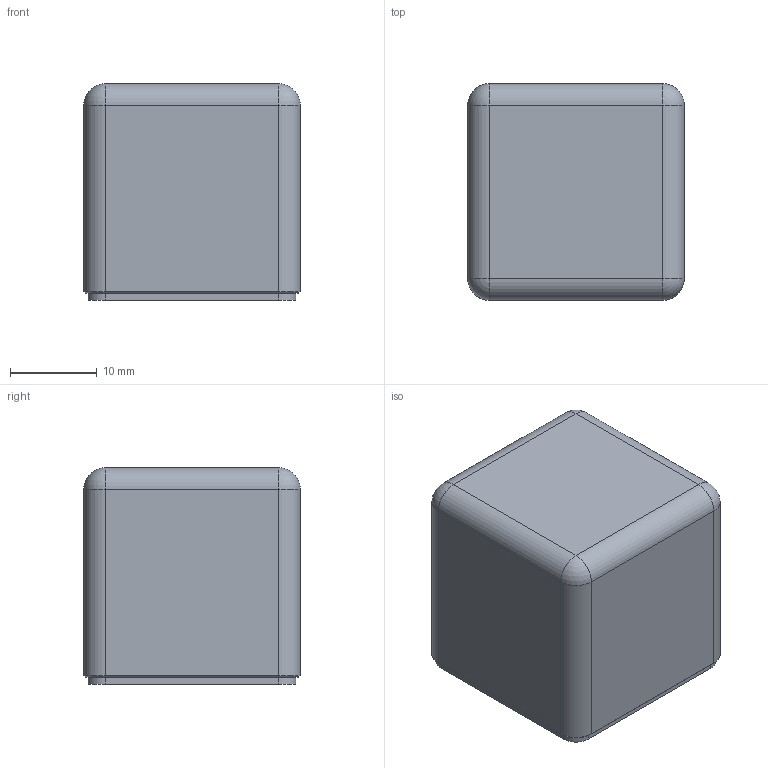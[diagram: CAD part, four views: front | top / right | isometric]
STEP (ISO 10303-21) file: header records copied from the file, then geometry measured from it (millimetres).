
FILE_DESCRIPTION(('Open CASCADE Model'),'2;1');
FILE_NAME('PN-CUBE-knob-25','2026-10-19T21:24:16',('Author'),( 'Open CASCADE'),'Open CASCADE STEP processor 8.0','build123d', 'Unknown');
FILE_SCHEMA(('AUTOMOTIVE_DESIGN { 1 0 10303 214 1 1 1 1 }'));
Length unit declared in the file: millimetre
Products named in the file (2): PN-CUBE-knob-25; brass_PN-CUBE25__k
Assembly tree (1 placements, depth 2):
  PN-CUBE-knob-25
    brass_PN-CUBE25__k
Bounding box: 25 x 25 x 25 mm (x, y, z)
Volume: 15217.7 mm3; surface area: 3635.6 mm2
Topology: 1 solids, 1 shells, 39 faces, 86 edges, 48 vertices
Faces by surface type: plane 17, cylinder 14, cone 4, sphere 4
Full cylindrical faces by diameter (mm): 3.3 x1, 5.1 x1
Entity records: 2100 total; most frequent: CARTESIAN_POINT 411, DIRECTION 314, ORIENTED_EDGE 164, PCURVE 164, DEFINITIONAL_REPRESENTATION 164, LINE 158, VECTOR 158, EDGE_CURVE 82
